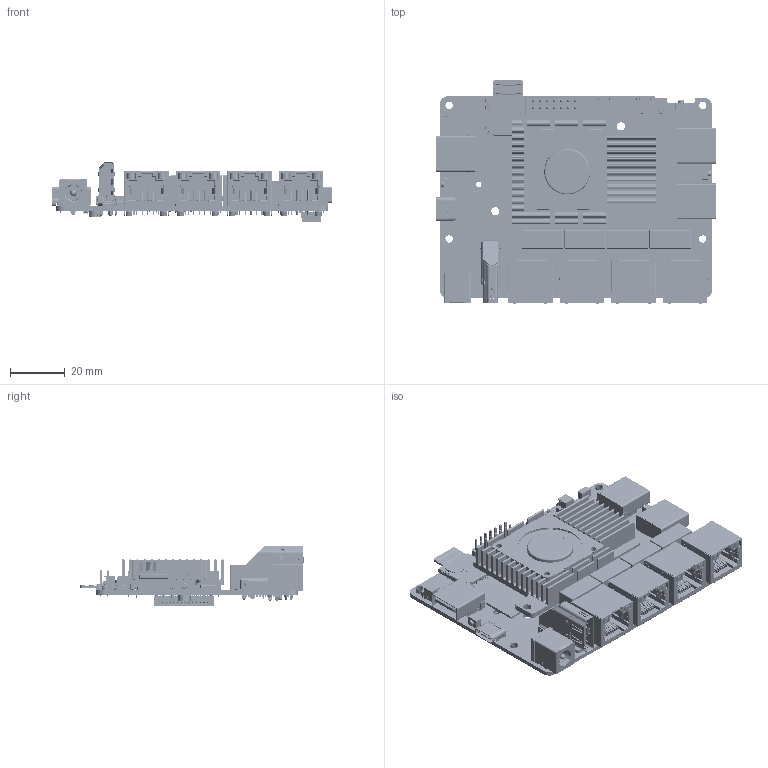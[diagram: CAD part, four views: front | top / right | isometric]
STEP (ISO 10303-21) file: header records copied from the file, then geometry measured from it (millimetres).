
FILE_DESCRIPTION((''),'2;1');
FILE_NAME('0_E24C_PCBA_ASM','2025-05-21T10:09:48',('111'),(''),'CREO PARAMETRIC BY PTC INC, 2025010','CREO PARAMETRIC BY PTC INC, 2025010','');
FILE_SCHEMA(('CONFIG_CONTROL_DESIGN','SHAPE_APPEARANCE_LAYERS_GROUPS'));
Products named in the file (47): 0_E24C_PCB; TOP_E24C_PCB; BOT_E24C_PCB; TOP_E54C; 0_PCBA_E24C_ASM; WT125AL-024C-0W_3__1; XB-U231-091_1; USB-16PIN-TYPEC_FIN_1_252_2_5_1; MSBR-1_1_2_1_5_1; TF-CARD_1_2_1_5_1; CSTT-102010222__ASM_3_ASM_2_ASM_ASM; TF_14M75X14M5_H2M0_ASM_2_ASM_3__ASM; TF_14M75X14M5_H2_ASM_1_ASM; PRT0001_1; XB-52E-1X5-8P8C-S_ASM_1; 1816577_2007435-1_2_1_1; HDMI_19P-AF_DIP_ASM_2_ASM_1_ASM_ASM; HDMI_19P-AF_DIP_ASM_1_ASM; LED0603_1; LED_0_ASM; TS-1035-A_9_16_1; DC-091-A200_1__1_ASM; 000_9_5_1; 1_11_0001_1; 1_2_0001_1; 1_7_0001_1; 1_12_0001_1; 1_1_0001_1; 1_3_0001_1; 1_5_0001_1; 1_6_0001_1; 1_10_0001_1; 1_9_0001_1; 1_4_0001_1; 1_8_0001_1; 560001_ASM_1_ASM; HR56_1X1___0001_ASM_1_ASM; 00_RS137_PCBA_ASM_1_ASM; 5C_6540B_1_1; 5C_6540B_1_2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
Assembly tree (60 placements, depth 6):
  0_E24C_PCBA_ASM
    00_RS137_PCBA_ASM_1_ASM
      0_PCBA_E24C_ASM
        0_E24C_PCB
        TOP_E24C_PCB
        BOT_E24C_PCB
        TOP_E54C
      WT125AL-024C-0W_3__1  x2
      XB-U231-091_1  x3
      USB-16PIN-TYPEC_FIN_1_252_2_5_1
      TF_14M75X14M5_H2_ASM_1_ASM
        TF_14M75X14M5_H2M0_ASM_2_ASM_3__ASM
          CSTT-102010222__ASM_3_ASM_2_ASM_ASM
            MSBR-1_1_2_1_5_1
            TF-CARD_1_2_1_5_1  x2
      PRT0001_1
      XB-52E-1X5-8P8C-S_ASM_1
      HDMI_19P-AF_DIP_ASM_1_ASM
        HDMI_19P-AF_DIP_ASM_2_ASM_1_ASM_ASM
          1816577_2007435-1_2_1_1
      LED_0_ASM
        LED0603_1  x6
      TS-1035-A_9_16_1  x3
      DC-091-A200_1__1_ASM
      000_9_5_1
      HR56_1X1___0001_ASM_1_ASM  x4
        560001_ASM_1_ASM
          1_11_0001_1
          1_2_0001_1
          1_7_0001_1
          1_12_0001_1
          1_1_0001_1
          1_3_0001_1
          1_5_0001_1
          1_6_0001_1
          1_10_0001_1
          1_9_0001_1
          1_4_0001_1
          1_8_0001_1
    5C_6540B_ASM
      5C_6540B_1_ASM
        5C_6540B_1_1
        5C_6540B_1_2
    TOP_E24C
    BDCF025B2N12215-DC0001_ASM
      DC_POWER_JACK__X2_03A6_X0_5_5_H_ASM
        DC550250-0370-20000H_1_3
Bounding box: 103 x 82.02 x 22.25 mm (x, y, z)
Volume: 37951.4 mm3; surface area: 67562.5 mm2
Topology: 77 solids, 90 shells, 12232 faces, 34550 edges, 22402 vertices
Faces by surface type: plane 8245, cylinder 3144, bspline 280, torus 255, cone 131, extrusion 101, sphere 76
Entity records: 297362 total; most frequent: CARTESIAN_POINT 67630, ORIENTED_EDGE 46816, DIRECTION 43590, EDGE_CURVE 23421, VECTOR 16732, LINE 16631, VERTEX_POINT 15378, AXIS2_PLACEMENT_3D 13429
